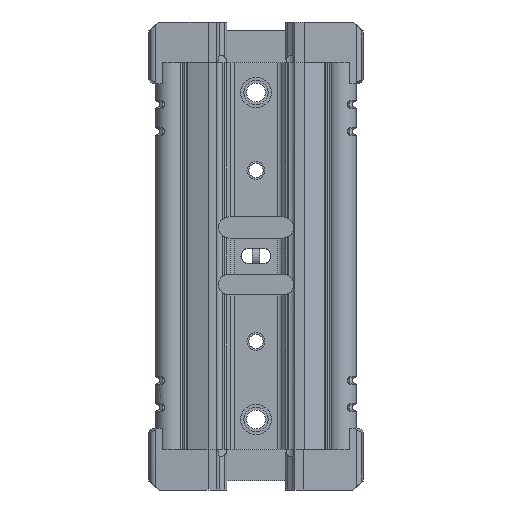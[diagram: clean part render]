
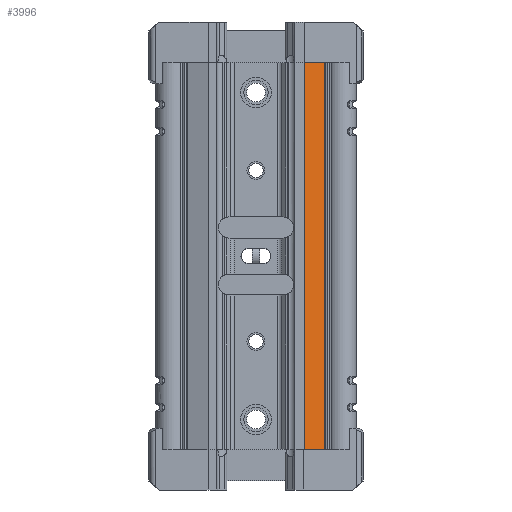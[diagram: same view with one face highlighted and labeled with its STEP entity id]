
A CAD part, front view. The second image highlights one B-rep face of the part: STEP entity #3996.
In plain terms, the highlighted planar face has unit normal (0.342, -0.94, 0).
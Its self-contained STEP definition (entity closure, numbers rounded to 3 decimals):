
#45=DIRECTION('',(0.94,0.342,0.));
#46=VECTOR('',#45,7.815);
#47=CARTESIAN_POINT('',(16.,-5.,-64.5));
#48=LINE('',#47,#46);
#592=DIRECTION('',(0.94,0.342,0.));
#593=VECTOR('',#592,7.815);
#594=CARTESIAN_POINT('',(16.,-5.,64.5));
#595=LINE('',#594,#593);
#758=DIRECTION('',(0.,0.,1.));
#759=VECTOR('',#758,129.);
#760=CARTESIAN_POINT('',(16.,-5.,-64.5));
#761=LINE('',#760,#759);
#762=DIRECTION('',(0.,0.,1.));
#763=VECTOR('',#762,129.);
#764=CARTESIAN_POINT('',(23.344,-2.327,-64.5));
#765=LINE('',#764,#763);
#2895=CARTESIAN_POINT('',(16.,-5.,-64.5));
#2896=VERTEX_POINT('',#2895);
#2897=CARTESIAN_POINT('',(23.344,-2.327,-64.5));
#2898=VERTEX_POINT('',#2897);
#2949=CARTESIAN_POINT('',(16.,-5.,64.5));
#2950=VERTEX_POINT('',#2949);
#2951=CARTESIAN_POINT('',(23.344,-2.327,64.5));
#2952=VERTEX_POINT('',#2951);
#3984=CARTESIAN_POINT('',(16.,-5.,-64.5));
#3985=DIRECTION('',(0.342,-0.94,0.));
#3986=DIRECTION('',(0.94,0.342,0.));
#3987=AXIS2_PLACEMENT_3D('',#3984,#3985,#3986);
#3988=PLANE('',#3987);
#3989=ORIENTED_EDGE('',*,*,#3485,.F.);
#3990=ORIENTED_EDGE('',*,*,#3979,.T.);
#3991=ORIENTED_EDGE('',*,*,#3861,.T.);
#3993=ORIENTED_EDGE('',*,*,#3992,.F.);
#3994=EDGE_LOOP('',(#3989,#3990,#3991,#3993));
#3995=FACE_OUTER_BOUND('',#3994,.F.);
#3996=ADVANCED_FACE('',(#3995),#3988,.T.);
#3485=EDGE_CURVE('',#2896,#2898,#48,.T.);
#3861=EDGE_CURVE('',#2950,#2952,#595,.T.);
#3979=EDGE_CURVE('',#2896,#2950,#761,.T.);
#3992=EDGE_CURVE('',#2898,#2952,#765,.T.);
